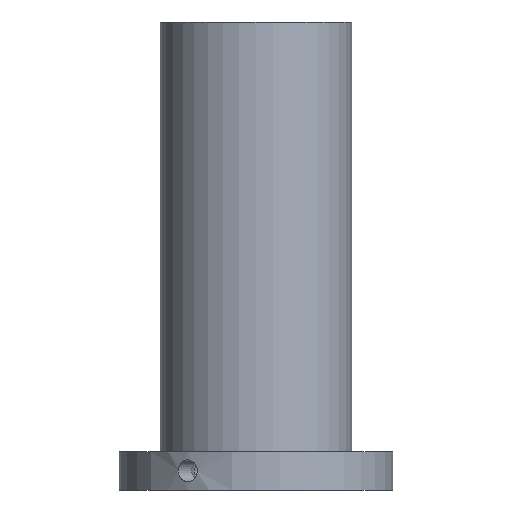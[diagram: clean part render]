
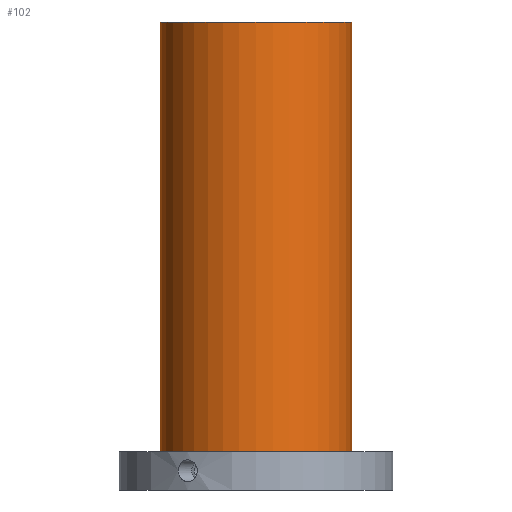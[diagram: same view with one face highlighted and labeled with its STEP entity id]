
A CAD part, front view. The second image highlights one B-rep face of the part: STEP entity #102.
In plain terms, the highlighted cylindrical face has radius 35 mm (diameter 70 mm), a full revolution.
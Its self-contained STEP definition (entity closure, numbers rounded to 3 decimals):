
#102=ADVANCED_FACE('',(#136,#137),#119,.T.);
#119=CYLINDRICAL_SURFACE('',#371,35.);
#136=FACE_BOUND('',#188,.T.);
#137=FACE_BOUND('',#189,.T.);
#188=EDGE_LOOP('',(#240));
#189=EDGE_LOOP('',(#241));
#240=ORIENTED_EDGE('',*,*,#318,.F.);
#241=ORIENTED_EDGE('',*,*,#319,.T.);
#292=VERTEX_POINT('',#557);
#293=VERTEX_POINT('',#559);
#318=EDGE_CURVE('',#292,#292,#343,.T.);
#319=EDGE_CURVE('',#293,#293,#344,.T.);
#343=CIRCLE('',#369,35.);
#344=CIRCLE('',#370,35.);
#369=AXIS2_PLACEMENT_3D('',#556,#415,#416);
#370=AXIS2_PLACEMENT_3D('',#558,#417,#418);
#371=AXIS2_PLACEMENT_3D('',#560,#419,#420);
#415=DIRECTION('',(0.,0.,-1.));
#416=DIRECTION('',(1.,0.,0.));
#417=DIRECTION('',(0.,0.,-1.));
#418=DIRECTION('',(1.,0.,0.));
#419=DIRECTION('',(0.,0.,-1.));
#420=DIRECTION('',(-1.,0.,0.));
#556=CARTESIAN_POINT('',(0.,0.,14.));
#557=CARTESIAN_POINT('',(35.,0.,14.));
#558=CARTESIAN_POINT('',(0.,0.,171.));
#559=CARTESIAN_POINT('',(35.,0.,171.));
#560=CARTESIAN_POINT('',(0.,0.,171.));
